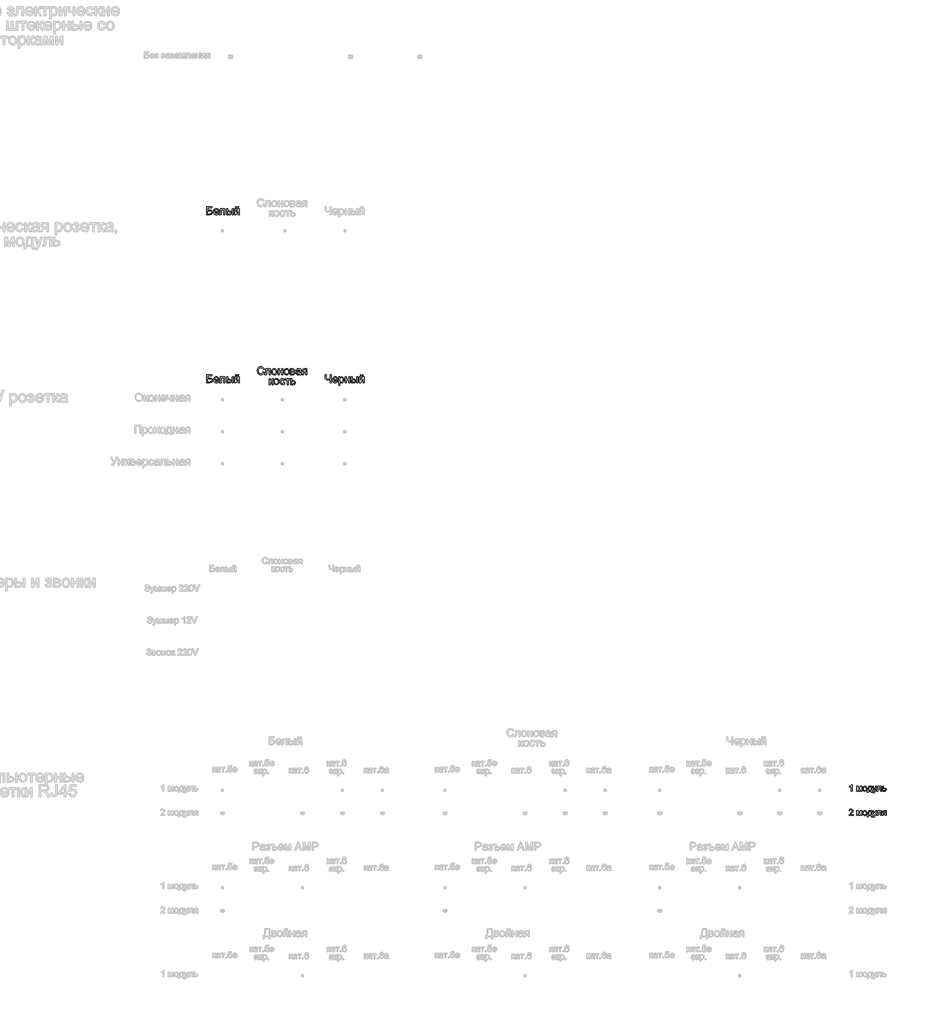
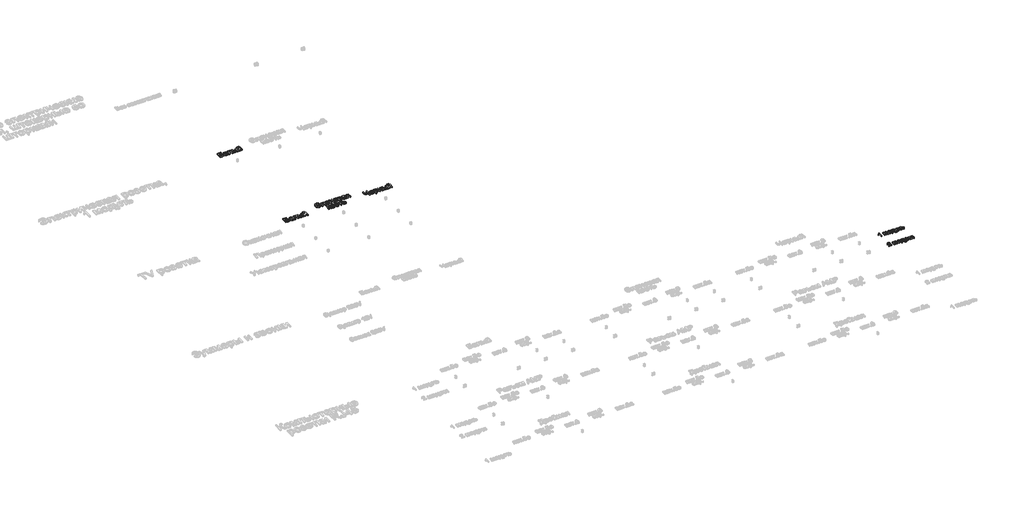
# One storey, part 35 of 47: 6 proxies.
"""IFC4 building model written with IfcOpenShell, lengths in millimetres."""

from ifc_helpers import new_model, si_unit, origin, origin_with_axes, place, context, project, spatial, polyline, outline, extrude, element, save

model = new_model("IFC4")

# Units and contexts
model_context = context("Model", 3, world=origin())
ifc_project = project(units=[si_unit("LENGTHUNIT", "METRE", prefix="MILLI")], contexts=[model_context])

# Site, building, storey
site = spatial("IfcSite", under=ifc_project)
building = spatial("IfcBuilding", under=site)
storey = spatial("IfcBuildingStorey", under=building, Name="Этаж 01", Elevation=0.0)

# Proxies
placement = place(None, origin())
element("IfcBuildingElementProxy", 1, Name="100 мм Arial", ObjectType="100 мм Arial", at=placement, inside=storey, context=model_context, shape_type="SweptSolid", body=[
    extrude(outline(polyline([(-193.1272764, -13030.4463281), (-130.3420826, -13030.4463281), (-130.3420826, -13043.0033668), (-180.5702376, -13043.0033668), (-180.5702376, -13072.8263339), (-157.0503154, -13072.8263339), (-136.3262964, -13075.3769824), (-123.9899868, -13085.0154907), (-119.3546737, -13101.4966041), (-122.6533489, -13115.8072137), (-132.5003236, -13126.684258), (-154.7939725, -13130.9026382), (-193.1272764, -13130.9026382), (-193.1272764, -13030.4463281)]), holes=[polyline([(-180.5702376, -13118.3455994), (-153.6658011, -13118.3455994), (-137.3563659, -13114.2007956), (-133.2728758, -13109.0197909), (-131.9117124, -13101.7663842), (-135.0264466, -13091.9316722), (-143.696199, -13086.6832224), (-162.6175963, -13085.3833727), (-180.5702376, -13085.3833727), (-180.5702376, -13118.3455994)])]), origin_with_axes(), (0.0, 0.0, 1.0), 20.0),
    extrude(outline(polyline([(-52.0077431, -13108.9278204), (-39.695959, -13110.4974502), (-44.1320027, -13119.7742079), (-51.2106654, -13126.7087835), (-60.7725316, -13131.0313969), (-72.6581857, -13132.4722681), (-87.3918596, -13129.9859989), (-98.7287565, -13122.5271915), (-105.9576377, -13110.5802237), (-108.3672647, -13094.6294735), (-105.9331122, -13078.1422287), (-98.6306546, -13065.8120505), (-87.4470419, -13058.1233168), (-73.3694243, -13055.5604056), (-59.7301993, -13058.1171855), (-48.8316952, -13065.7875251), (-41.6855874, -13078.0931778), (-39.3035515, -13094.5558971), (-39.3771279, -13097.9404114), (-95.810226, -13097.9404114), (-93.6366565, -13107.3397964), (-88.5874761, -13114.2498466), (-81.3003469, -13118.4988836), (-72.4129311, -13119.9152293), (-60.101147, -13117.2910044), (-52.0077431, -13108.9278204)]), holes=[polyline([(-95.810226, -13085.3833727), (-51.8605903, -13085.3833727), (-56.8883109, -13074.0035563), (-64.2091626, -13069.5889724), (-73.4184752, -13068.1174444), (-88.8817817, -13072.8140712), (-93.7470211, -13078.30471), (-95.810226, -13085.3833727)])]), origin_with_axes(), (0.0, 0.0, 1.0), 20.0),
    extrude(outline(polyline([(-20.4679933, -13057.1300355), (36.0386811, -13057.1300355), (36.0386811, -13130.8290618), (23.4816423, -13130.8290618), (23.4816423, -13069.6870742), (-7.9109546, -13069.6870742), (-7.9109546, -13104.8811184), (-8.7570832, -13121.1169771), (-13.404659, -13127.971845), (-24.392068, -13130.9026382), (-34.594662, -13130.2649761), (-34.594662, -13118.3455994), (-28.9783302, -13118.3455994), (-23.3006847, -13117.5730473), (-21.0320791, -13115.1205006), (-20.4679933, -13104.1698799), (-20.4679933, -13057.1300355)])), origin_with_axes(), (0.0, 0.0, 1.0), 20.0),
    extrude(outline(polyline([(123.9379525, -13057.1300355), (136.4949913, -13057.1300355), (136.4949913, -13130.9026382), (123.9379525, -13130.9026382), (123.9379525, -13057.1300355)])), origin_with_axes(), (0.0, 0.0, 1.0), 20.0),
    extrude(outline(polyline([(54.8742393, -13057.1300355), (67.431278, -13057.1300355), (67.431278, -13083.8137428), (82.9558982, -13083.8137428), (96.374394, -13085.3864384), (106.3164049, -13090.104525), (112.4692313, -13097.5878579), (114.5201734, -13107.4562924), (112.8003251, -13116.4418101), (107.6407801, -13124.0232449), (98.7043133, -13129.1827899), (85.6536995, -13130.9026382), (54.8742393, -13130.9026382), (54.8742393, -13057.1300355)]), holes=[polyline([(67.431278, -13118.3455994), (80.3316733, -13118.3455994), (96.984465, -13115.7091118), (101.9631346, -13107.4808179), (98.272052, -13099.755296), (81.9748796, -13096.3707816), (67.431278, -13096.3707816), (67.431278, -13118.3455994)])]), origin_with_axes(), (0.0, 0.0, 1.0), 20.0),
    extrude(outline(polyline([(196.1409254, -13030.4463281), (205.5587045, -13030.4463281), (199.4641261, -13044.4135812), (185.9383314, -13049.2818862), (171.296628, -13044.4503694), (164.7483285, -13030.4463281), (174.1661076, -13030.4463281), (177.6977747, -13037.5219251), (184.81016, -13039.8641071), (192.6092583, -13037.5955015), (196.1409254, -13030.4463281)])), origin_with_axes(), (0.0, 0.0, 1.0), 20.0),
    extrude(outline(polyline([(155.3305494, -13057.1300355), (167.8875882, -13057.1300355), (167.8875882, -13113.3914552), (198.7406248, -13057.1300355), (214.9764836, -13057.1300355), (214.9764836, -13130.9026382), (202.4194448, -13130.9026382), (202.4194448, -13074.984575), (171.7626119, -13130.9026382), (155.3305494, -13130.9026382), (155.3305494, -13057.1300355)])), origin_with_axes(), (0.0, 0.0, 1.0), 20.0),
])
element("IfcBuildingElementProxy", 2, Name="100 мм Arial", ObjectType="100 мм Arial", at=placement, inside=storey, context=model_context, shape_type="SweptSolid", body=[
    extrude(outline(polyline([(-193.1272764, -15130.4463281), (-130.3420826, -15130.4463281), (-130.3420826, -15143.0033668), (-180.5702376, -15143.0033668), (-180.5702376, -15172.8263339), (-157.0503154, -15172.8263339), (-136.3262964, -15175.3769824), (-123.9899868, -15185.0154907), (-119.3546737, -15201.4966041), (-122.6533489, -15215.8072137), (-132.5003236, -15226.684258), (-154.7939725, -15230.9026382), (-193.1272764, -15230.9026382), (-193.1272764, -15130.4463281)]), holes=[polyline([(-180.5702376, -15218.3455994), (-153.6658011, -15218.3455994), (-137.3563659, -15214.2007956), (-133.2728758, -15209.0197909), (-131.9117124, -15201.7663842), (-135.0264466, -15191.9316722), (-143.696199, -15186.6832224), (-162.6175963, -15185.3833727), (-180.5702376, -15185.3833727), (-180.5702376, -15218.3455994)])]), origin_with_axes(), (0.0, 0.0, 1.0), 20.0),
    extrude(outline(polyline([(-52.0077431, -15208.9278204), (-39.695959, -15210.4974502), (-44.1320027, -15219.7742079), (-51.2106654, -15226.7087835), (-60.7725316, -15231.0313969), (-72.6581857, -15232.4722681), (-87.3918596, -15229.9859989), (-98.7287565, -15222.5271915), (-105.9576377, -15210.5802237), (-108.3672647, -15194.6294735), (-105.9331122, -15178.1422287), (-98.6306546, -15165.8120505), (-87.4470419, -15158.1233168), (-73.3694243, -15155.5604056), (-59.7301993, -15158.1171855), (-48.8316952, -15165.7875251), (-41.6855874, -15178.0931778), (-39.3035515, -15194.5558971), (-39.3771279, -15197.9404114), (-95.810226, -15197.9404114), (-93.6366565, -15207.3397964), (-88.5874761, -15214.2498466), (-81.3003469, -15218.4988836), (-72.4129311, -15219.9152293), (-60.101147, -15217.2910044), (-52.0077431, -15208.9278204)]), holes=[polyline([(-95.810226, -15185.3833727), (-51.8605903, -15185.3833727), (-56.8883109, -15174.0035563), (-64.2091626, -15169.5889724), (-73.4184752, -15168.1174444), (-88.8817817, -15172.8140712), (-93.7470211, -15178.30471), (-95.810226, -15185.3833727)])]), origin_with_axes(), (0.0, 0.0, 1.0), 20.0),
    extrude(outline(polyline([(-20.4679933, -15157.1300355), (36.0386811, -15157.1300355), (36.0386811, -15230.8290618), (23.4816423, -15230.8290618), (23.4816423, -15169.6870742), (-7.9109546, -15169.6870742), (-7.9109546, -15204.8811184), (-8.7570832, -15221.1169771), (-13.404659, -15227.971845), (-24.392068, -15230.9026382), (-34.594662, -15230.2649761), (-34.594662, -15218.3455994), (-28.9783302, -15218.3455994), (-23.3006847, -15217.5730473), (-21.0320791, -15215.1205006), (-20.4679933, -15204.1698799), (-20.4679933, -15157.1300355)])), origin_with_axes(), (0.0, 0.0, 1.0), 20.0),
    extrude(outline(polyline([(123.9379525, -15157.1300355), (136.4949913, -15157.1300355), (136.4949913, -15230.9026382), (123.9379525, -15230.9026382), (123.9379525, -15157.1300355)])), origin_with_axes(), (0.0, 0.0, 1.0), 20.0),
    extrude(outline(polyline([(54.8742393, -15157.1300355), (67.431278, -15157.1300355), (67.431278, -15183.8137428), (82.9558982, -15183.8137428), (96.374394, -15185.3864384), (106.3164049, -15190.104525), (112.4692313, -15197.5878579), (114.5201734, -15207.4562924), (112.8003251, -15216.4418101), (107.6407801, -15224.0232449), (98.7043133, -15229.1827899), (85.6536995, -15230.9026382), (54.8742393, -15230.9026382), (54.8742393, -15157.1300355)]), holes=[polyline([(67.431278, -15218.3455994), (80.3316733, -15218.3455994), (96.984465, -15215.7091118), (101.9631346, -15207.4808179), (98.272052, -15199.755296), (81.9748796, -15196.3707816), (67.431278, -15196.3707816), (67.431278, -15218.3455994)])]), origin_with_axes(), (0.0, 0.0, 1.0), 20.0),
    extrude(outline(polyline([(196.1409254, -15130.4463281), (205.5587045, -15130.4463281), (199.4641261, -15144.4135812), (185.9383314, -15149.2818862), (171.296628, -15144.4503694), (164.7483285, -15130.4463281), (174.1661076, -15130.4463281), (177.6977747, -15137.5219251), (184.81016, -15139.8641071), (192.6092583, -15137.5955015), (196.1409254, -15130.4463281)])), origin_with_axes(), (0.0, 0.0, 1.0), 20.0),
    extrude(outline(polyline([(155.3305494, -15157.1300355), (167.8875882, -15157.1300355), (167.8875882, -15213.3914552), (198.7406248, -15157.1300355), (214.9764836, -15157.1300355), (214.9764836, -15230.9026382), (202.4194448, -15230.9026382), (202.4194448, -15174.984575), (171.7626119, -15230.9026382), (155.3305494, -15230.9026382), (155.3305494, -15157.1300355)])), origin_with_axes(), (0.0, 0.0, 1.0), 20.0),
])
element("IfcBuildingElementProxy", 3, Name="100 мм Arial", ObjectType="100 мм Arial", at=placement, inside=storey, context=model_context, shape_type="SweptSolid", body=[
    extrude(outline(polyline([(512.340867, -15095.1935592), (524.8979057, -15098.4309208), (519.1037643, -15113.0634271), (510.0109477, -15123.7534648), (498.0670456, -15130.2925672), (483.7196477, -15132.4722681), (469.1545864, -15130.8229305), (457.5877634, -15125.8749176), (448.7218073, -15117.7999078), (442.2593469, -15106.7695793), (436.9986344, -15079.9141937), (438.4854908, -15065.2663589), (442.9460599, -15052.6173496), (450.14735, -15042.3687704), (459.856369, -15034.9222257), (471.3710754, -15030.3880801), (483.9894279, -15028.8766982), (497.7574115, -15030.8326042), (509.1402936, -15036.700322), (517.7824548, -15046.1181011), (523.3282759, -15058.7241908), (510.7712371, -15061.7162977), (500.4705413, -15046.2775166), (483.4989185, -15041.433737), (463.85402, -15046.8048141), (452.7562465, -15061.2257883), (449.5556731, -15079.8896682), (453.3448577, -15101.5211295), (465.141607, -15115.3412298), (482.468849, -15119.9152293), (492.9504201, -15118.3578622), (501.6845518, -15113.6857608), (508.2788366, -15105.9479762), (512.340867, -15095.1935592)])), origin_with_axes(), (0.0, 0.0, 1.0), 20.0),
    extrude(outline(polyline([(546.8727236, -15057.1300355), (603.379398, -15057.1300355), (603.379398, -15130.8290618), (590.8223593, -15130.8290618), (590.8223593, -15069.6870742), (559.4297624, -15069.6870742), (559.4297624, -15104.8811184), (558.5836338, -15121.1169771), (553.9360579, -15127.971845), (542.948649, -15130.9026382), (532.746055, -15130.2649761), (532.746055, -15118.3455994), (538.3623868, -15118.3455994), (544.0400322, -15117.5730473), (546.3086379, -15115.1205006), (546.8727236, -15104.1698799), (546.8727236, -15057.1300355)])), origin_with_axes(), (0.0, 0.0, 1.0), 20.0),
    extrude(outline(polyline([(619.0756965, -15094.0163368), (621.7918919, -15076.2292424), (629.9404781, -15063.7273859), (640.008182, -15057.6021507), (652.0624487, -15055.5604056), (665.2540839, -15058.0466748), (675.7908374, -15065.5054822), (682.6978219, -15077.3482168), (685.00015, -15092.9862672), (680.9289226, -15115.3289671), (669.0708596, -15127.971845), (652.0624487, -15132.4722681), (638.711398, -15129.995196), (628.1869073, -15122.5639797), (621.3534992, -15110.4729248), (619.0756965, -15094.0163368)]), holes=[polyline([(631.6327353, -15093.9918114), (633.0858692, -15105.3562993), (637.4452708, -15113.4527689), (644.005833, -15118.2996142), (652.0624487, -15119.9152293), (660.0822762, -15118.2904171), (666.6305757, -15113.4159807), (670.9899774, -15105.2122122), (672.4431113, -15093.5994039), (670.9807803, -15082.5660097), (666.5937875, -15074.5799048), (660.036291, -15069.7330595), (652.0624487, -15068.1174444), (644.005833, -15069.7269281), (637.4452708, -15074.5553793), (633.0858692, -15082.6334548), (631.6327353, -15093.9918114)])]), origin_with_axes(), (0.0, 0.0, 1.0), 20.0),
    extrude(outline(polyline([(699.1268187, -15057.1300355), (711.6838574, -15057.1300355), (711.6838574, -15085.3833727), (744.6460842, -15085.3833727), (744.6460842, -15057.1300355), (757.203123, -15057.1300355), (757.203123, -15130.9026382), (744.6460842, -15130.9026382), (744.6460842, -15097.9404114), (711.6838574, -15097.9404114), (711.6838574, -15130.9026382), (699.1268187, -15130.9026382), (699.1268187, -15057.1300355)])), origin_with_axes(), (0.0, 0.0, 1.0), 20.0),
    extrude(outline(polyline([(772.8994214, -15094.0163368), (775.6156168, -15076.2292424), (783.764203, -15063.7273859), (793.8319069, -15057.6021507), (805.8861737, -15055.5604056), (819.0778089, -15058.0466748), (829.6145623, -15065.5054822), (836.5215468, -15077.3482168), (838.823875, -15092.9862672), (834.7526475, -15115.3289671), (822.8945846, -15127.971845), (805.8861737, -15132.4722681), (792.5351229, -15129.995196), (782.0106322, -15122.5639797), (775.1772241, -15110.4729248), (772.8994214, -15094.0163368)]), holes=[polyline([(785.4564602, -15093.9918114), (786.9095941, -15105.3562993), (791.2689957, -15113.4527689), (797.829558, -15118.2996142), (805.8861737, -15119.9152293), (813.9060011, -15118.2904171), (820.4543007, -15113.4159807), (824.8137023, -15105.2122122), (826.2668362, -15093.5994039), (824.8045053, -15082.5660097), (820.4175125, -15074.5799048), (813.8600159, -15069.7330595), (805.8861737, -15068.1174444), (797.829558, -15069.7269281), (791.2689957, -15074.5553793), (786.9095941, -15082.6334548), (785.4564602, -15093.9918114)])]), origin_with_axes(), (0.0, 0.0, 1.0), 20.0),
    extrude(outline(polyline([(852.9505436, -15057.1300355), (880.6152696, -15057.1300355), (895.7842705, -15058.8100299), (904.3191328, -15064.9659219), (907.8875882, -15075.6958135), (905.7293471, -15084.4146168), (899.2300986, -15090.6318225), (907.666859, -15097.4376394), (911.0268479, -15109.2711769), (908.8992637, -15118.8422401), (903.8408862, -15125.580612), (895.8333215, -15129.5721317), (884.8581753, -15130.9026382), (852.9505436, -15130.9026382), (852.9505436, -15057.1300355)]), holes=[polyline([(865.5075823, -15085.3833727), (877.9174683, -15085.3833727), (888.1568505, -15084.7457106), (893.1355202, -15082.1950621), (895.3305494, -15077.5842744), (891.4800512, -15071.4283823), (878.3098758, -15069.6870742), (865.5075823, -15069.6870742), (865.5075823, -15085.3833727)]), polyline([(865.5075823, -15118.3455994), (880.9095752, -15118.3455994), (894.57026, -15116.0769938), (898.4698091, -15108.2411073), (896.3238308, -15102.1955799), (890.7320245, -15098.6761754), (879.6833019, -15097.9404114), (865.5075823, -15097.9404114), (865.5075823, -15118.3455994)])]), origin_with_axes(), (0.0, 0.0, 1.0), 20.0),
    extrude(outline(polyline([(973.8120417, -15121.4848591), (961.6351477, -15129.995196), (948.1829294, -15132.4722681), (937.6890955, -15130.982346), (929.9482452, -15126.5125797), (925.1749763, -15119.7251569), (923.5838866, -15111.2822651), (925.9873823, -15101.3494513), (932.3026899, -15094.1389642), (941.0950696, -15090.0186858), (951.9598512, -15088.1302249), (973.7384653, -15083.8137428), (973.8120417, -15081.0178397), (970.353951, -15071.7472134), (956.472537, -15068.1174444), (943.7683454, -15070.5332028), (937.7105553, -15079.1048533), (925.1535165, -15077.5352234), (930.5859073, -15065.2724903), (941.5242653, -15058.0865286), (958.0912178, -15055.5604056), (973.3092697, -15057.792223), (981.9054456, -15063.3962921), (985.7559438, -15071.9188917), (986.3690805, -15082.9063006), (986.3690805, -15098.5290226), (987.0067426, -15120.344425), (989.5083402, -15130.9026382), (976.9513014, -15130.9026382), (973.8120417, -15121.4848591)]), holes=[polyline([(973.8120417, -15096.3707816), (953.5540065, -15100.2212798), (942.7505386, -15102.2568935), (937.8577081, -15105.5678315), (936.1409254, -15110.3993484), (939.881059, -15117.1929025), (950.8562052, -15119.9152293), (963.5603968, -15116.9108597), (971.7519025, -15109.6390589), (973.7384653, -15099.9269742), (973.8120417, -15096.3707816)])]), origin_with_axes(), (0.0, 0.0, 1.0), 20.0),
    extrude(outline(polyline([(1060.1416833, -15057.1300355), (1060.1416833, -15130.9026382), (1047.5846445, -15130.9026382), (1047.5846445, -15102.649301), (1040.7420394, -15102.649301), (1031.4223622, -15104.2434563), (1022.6667707, -15114.9610851), (1012.6603804, -15130.9026382), (998.1413043, -15130.9026382), (1010.747394, -15110.7427049), (1021.4404974, -15100.2948562), (1012.8565841, -15097.6645), (1006.8233194, -15092.6674362), (1002.0653789, -15078.4426657), (1003.6901911, -15069.8464898), (1008.5646275, -15063.0406728), (1016.51701, -15058.6076948), (1027.3756602, -15057.1300355), (1060.1416833, -15057.1300355)]), holes=[polyline([(1047.5846445, -15069.6870742), (1031.0299547, -15069.6870742), (1017.6267873, -15072.593342), (1014.6224177, -15079.3991589), (1019.0492644, -15087.5048255), (1034.7333001, -15090.0922622), (1047.5846445, -15090.0922622), (1047.5846445, -15069.6870742)])]), origin_with_axes(), (0.0, 0.0, 1.0), 20.0),
    extrude(outline(polyline([(586.8982847, -15179.1048533), (599.4553234, -15179.1048533), (599.4553234, -15210.4974502), (607.8675584, -15208.2411073), (614.7592144, -15195.0954574), (620.4859108, -15183.7524292), (625.5381569, -15180.0613465), (634.722944, -15179.1048533), (637.1264397, -15179.1048533), (637.1264397, -15191.7354685), (633.7419254, -15191.6618921), (627.6105588, -15192.9862672), (623.2940767, -15201.2513494), (618.2295679, -15210.1908819), (611.1294454, -15214.5686776), (619.051171, -15219.4553768), (626.8257439, -15229.7499413), (640.2656994, -15252.8774561), (625.991878, -15252.8774561), (612.8217026, -15230.2404506), (606.1998267, -15220.663256), (599.4553234, -15218.3455994), (599.4553234, -15252.8774561), (586.8982847, -15252.8774561), (586.8982847, -15179.1048533)])), origin_with_axes(), (0.0, 0.0, 1.0), 20.0),
    extrude(outline(polyline([(644.974589, -15215.9911547), (647.6907844, -15198.2040602), (655.8393706, -15185.7022037), (665.9070745, -15179.5769685), (677.9613412, -15177.5352234), (691.1529764, -15180.0214926), (701.6897299, -15187.4803001), (708.5967143, -15199.3230346), (710.8990425, -15214.9610851), (706.8278151, -15237.3037849), (694.9697521, -15249.9466628), (677.9613412, -15254.4470859), (664.6102905, -15251.9700138), (654.0857997, -15244.5387975), (647.2523917, -15232.4477426), (644.974589, -15215.9911547)]), holes=[polyline([(657.5316277, -15215.9666292), (658.9847616, -15227.3311172), (663.3441633, -15235.4275868), (669.9047255, -15240.274432), (677.9613412, -15241.8900471), (685.9811687, -15240.265235), (692.5294682, -15235.3907986), (696.8888698, -15227.1870301), (698.3420037, -15215.5742218), (696.8796728, -15204.5408276), (692.49268, -15196.5547226), (685.9351834, -15191.7078773), (677.9613412, -15190.0922622), (669.9047255, -15191.7017459), (663.3441633, -15196.5301971), (658.9847616, -15204.6082726), (657.5316277, -15215.9666292)])]), origin_with_axes(), (0.0, 0.0, 1.0), 20.0),
    extrude(outline(polyline([(772.1146065, -15226.1937487), (784.6716453, -15227.7633785), (781.1706349, -15238.9316628), (774.5916786, -15247.3714889), (765.5540442, -15252.6781866), (754.6769999, -15254.4470859), (741.3198178, -15251.9792109), (730.8750348, -15244.5755857), (724.1335973, -15232.5611729), (721.8864514, -15216.2609348), (725.7246869, -15195.4020257), (737.4233344, -15181.9988583), (754.5053217, -15177.5352234), (765.1156515, -15179.0680651), (773.5983972, -15183.66659), (779.6837785, -15191.0855436), (783.1020154, -15201.0796711), (770.5449767, -15202.649301), (764.7201784, -15193.2437846), (754.6034235, -15190.0922622), (746.4885598, -15191.643498), (740.0475593, -15196.2972052), (735.8445075, -15204.30477), (734.4434902, -15215.9175783), (735.8138506, -15227.6867364), (739.9249319, -15235.7218924), (746.2494366, -15240.3480084), (754.260067, -15241.8900471), (766.0936045, -15238.0395489), (772.1146065, -15226.1937487)])), origin_with_axes(), (0.0, 0.0, 1.0), 20.0),
    extrude(outline(polyline([(789.3805348, -15179.1048533), (849.026469, -15179.1048533), (849.026469, -15191.6618921), (825.4820213, -15191.6618921), (825.4820213, -15252.8774561), (812.9249825, -15252.8774561), (812.9249825, -15191.6618921), (789.3805348, -15191.6618921), (789.3805348, -15179.1048533)])), origin_with_axes(), (0.0, 0.0, 1.0), 20.0),
    extrude(outline(polyline([(860.0138779, -15179.1048533), (872.5709166, -15179.1048533), (872.5709166, -15205.7885607), (887.0409418, -15205.7885607), (899.5857178, -15207.3612562), (908.8686068, -15212.0793428), (914.607566, -15219.5626757), (916.5205523, -15229.4311102), (914.8926745, -15238.416628), (910.009041, -15245.9980628), (901.5446894, -15251.1576077), (889.1746574, -15252.8774561), (860.0138779, -15252.8774561), (860.0138779, -15179.1048533)]), holes=[polyline([(872.5709166, -15240.3204173), (884.2940896, -15240.3204173), (899.438565, -15237.6839297), (903.9635136, -15229.4556357), (900.6157874, -15221.7301138), (885.790143, -15218.3455994), (872.5709166, -15218.3455994), (872.5709166, -15240.3204173)])]), origin_with_axes(), (0.0, 0.0, 1.0), 20.0),
])
element("IfcBuildingElementProxy", 4, Name="100 мм Arial", ObjectType="100 мм Arial", at=placement, inside=storey, context=model_context, shape_type="SweptSolid", body=[
    extrude(outline(polyline([(1361.6197653, -15230.9026382), (1349.0627265, -15230.9026382), (1349.0627265, -15190.6808734), (1317.9644352, -15197.9404114), (1299.6071236, -15192.9740045), (1288.9630712, -15180.3679148), (1286.2775327, -15160.367397), (1286.2775327, -15130.4463281), (1298.8345714, -15130.4463281), (1298.8345714, -15158.6751398), (1300.3428876, -15172.2530511), (1304.8678362, -15180.220762), (1319.3623868, -15185.3833727), (1349.0627265, -15179.1539042), (1349.0627265, -15130.4463281), (1361.6197653, -15130.4463281), (1361.6197653, -15230.9026382)])), origin_with_axes(), (0.0, 0.0, 1.0), 20.0),
    extrude(outline(polyline([(1433.6755854, -15208.9278204), (1445.9873695, -15210.4974502), (1441.5513258, -15219.7742079), (1434.4726631, -15226.7087835), (1424.9107969, -15231.0313969), (1413.0251427, -15232.4722681), (1398.2914688, -15229.9859989), (1386.954572, -15222.5271915), (1379.7256908, -15210.5802237), (1377.3160637, -15194.6294735), (1379.7502163, -15178.1422287), (1387.0526739, -15165.8120505), (1398.2362865, -15158.1233168), (1412.3139042, -15155.5604056), (1425.9531292, -15158.1171855), (1436.8516333, -15165.7875251), (1443.997741, -15178.0931778), (1446.379777, -15194.5558971), (1446.3062006, -15197.9404114), (1389.8731025, -15197.9404114), (1392.046672, -15207.3397964), (1397.0958523, -15214.2498466), (1404.3829815, -15218.4988836), (1413.2703974, -15219.9152293), (1425.5821815, -15217.2910044), (1433.6755854, -15208.9278204)]), holes=[polyline([(1389.8731025, -15185.3833727), (1433.8227382, -15185.3833727), (1428.7950176, -15174.0035563), (1421.4741659, -15169.5889724), (1412.2648533, -15168.1174444), (1396.8015467, -15172.8140712), (1391.9363074, -15178.30471), (1389.8731025, -15185.3833727)])]), origin_with_axes(), (0.0, 0.0, 1.0), 20.0),
    extrude(outline(polyline([(1458.9368157, -15259.1559754), (1458.9368157, -15157.1300355), (1471.4938545, -15157.1300355), (1471.4938545, -15169.4418196), (1480.1758696, -15159.0307591), (1491.8990425, -15155.5604056), (1507.8160702, -15160.4164479), (1518.2148679, -15174.1016582), (1521.7220096, -15193.4522511), (1517.7611468, -15213.7961254), (1506.258703, -15227.6530139), (1490.3784636, -15232.4722681), (1479.4523683, -15229.2471692), (1471.4938545, -15221.0924517), (1471.4938545, -15259.1559754), (1458.9368157, -15259.1559754)]), holes=[polyline([(1471.4938545, -15194.604948), (1472.8519522, -15205.8621371), (1476.9262453, -15213.7348118), (1482.9380502, -15218.3701249), (1490.1086835, -15219.9152293), (1497.3958126, -15218.3149426), (1503.5609017, -15213.5140826), (1507.7639535, -15205.3532337), (1509.1649708, -15193.6729803), (1507.7976761, -15182.4771049), (1503.6957918, -15174.4940656), (1497.6931839, -15169.7115997), (1490.6237182, -15168.1174444), (1483.5266614, -15169.8127672), (1477.2941273, -15174.8987358), (1472.9439227, -15183.2159346), (1471.4938545, -15194.604948)])]), origin_with_axes(), (0.0, 0.0, 1.0), 20.0),
    extrude(outline(polyline([(1535.8486782, -15157.1300355), (1548.405717, -15157.1300355), (1548.405717, -15185.3833727), (1581.3679437, -15185.3833727), (1581.3679437, -15157.1300355), (1593.9249825, -15157.1300355), (1593.9249825, -15230.9026382), (1581.3679437, -15230.9026382), (1581.3679437, -15197.9404114), (1548.405717, -15197.9404114), (1548.405717, -15230.9026382), (1535.8486782, -15230.9026382), (1535.8486782, -15157.1300355)])), origin_with_axes(), (0.0, 0.0, 1.0), 20.0),
    extrude(outline(polyline([(1612.7605406, -15157.1300355), (1625.3175794, -15157.1300355), (1625.3175794, -15183.8137428), (1640.8421996, -15183.8137428), (1654.2606954, -15185.3864384), (1664.2027063, -15190.104525), (1670.3555327, -15197.5878579), (1672.4064748, -15207.4562924), (1670.6866265, -15216.4418101), (1665.5270815, -15224.0232449), (1656.5906147, -15229.1827899), (1643.5400009, -15230.9026382), (1612.7605406, -15230.9026382), (1612.7605406, -15157.1300355)]), holes=[polyline([(1625.3175794, -15218.3455994), (1638.2179747, -15218.3455994), (1654.8707664, -15215.7091118), (1659.849436, -15207.4808179), (1656.1583533, -15199.755296), (1639.861181, -15196.3707816), (1625.3175794, -15196.3707816), (1625.3175794, -15218.3455994)])]), origin_with_axes(), (0.0, 0.0, 1.0), 20.0),
    extrude(outline(polyline([(1681.8242539, -15157.1300355), (1694.3812926, -15157.1300355), (1694.3812926, -15230.9026382), (1681.8242539, -15230.9026382), (1681.8242539, -15157.1300355)])), origin_with_axes(), (0.0, 0.0, 1.0), 20.0),
    extrude(outline(polyline([(1713.2168508, -15157.1300355), (1725.7738896, -15157.1300355), (1725.7738896, -15213.3914552), (1756.6269262, -15157.1300355), (1772.8627849, -15157.1300355), (1772.8627849, -15230.9026382), (1760.3057462, -15230.9026382), (1760.3057462, -15174.984575), (1729.6489132, -15230.9026382), (1713.2168508, -15230.9026382), (1713.2168508, -15157.1300355)])), origin_with_axes(), (0.0, 0.0, 1.0), 20.0),
    extrude(outline(polyline([(1754.0272268, -15130.4463281), (1763.4450059, -15130.4463281), (1757.3504275, -15144.4135812), (1743.8246328, -15149.2818862), (1729.1829294, -15144.4503694), (1722.6346299, -15130.4463281), (1732.052409, -15130.4463281), (1735.5840761, -15137.5219251), (1742.6964613, -15139.8641071), (1750.4955596, -15137.5955015), (1754.0272268, -15130.4463281)])), origin_with_axes(), (0.0, 0.0, 1.0), 20.0),
])
element("IfcBuildingElementProxy", 5, Name="80 мм Arial", ObjectType="80 мм Arial", at=placement, inside=storey, context=model_context, shape_type="SweptSolid", body=[
    extrude(outline(polyline([(7871.0563135, -20331.4329989), (7861.0106825, -20331.4329989), (7861.0106825, -20268.804768), (7851.4948016, -20275.5836069), (7840.9194205, -20280.6554733), (7840.9194205, -20271.1592128), (7855.6445105, -20261.7610541), (7864.5815904, -20251.0679507), (7871.0563135, -20251.0679507), (7871.0563135, -20331.4329989)])), origin_with_axes(), (0.0, 0.0, 1.0), 20.0),
    extrude(outline(polyline([(7928.8186919, -20272.4149166), (7946.1042406, -20272.4149166), (7959.4264739, -20319.660775), (7973.788587, -20272.4149166), (7990.3481818, -20272.4149166), (7990.3481818, -20331.4329989), (7980.3025508, -20331.4329989), (7980.3025508, -20283.9124553), (7965.8619562, -20331.4329989), (7952.6770655, -20331.4329989), (7938.8643229, -20281.636492), (7938.8643229, -20331.4329989), (7928.8186919, -20331.4329989), (7928.8186919, -20272.4149166)])), origin_with_axes(), (0.0, 0.0, 1.0), 20.0),
    extrude(outline(polyline([(8002.9052206, -20301.9239578), (8005.0781769, -20287.6942822), (8011.5970459, -20277.692797), (8019.651209, -20272.7926088), (8029.2946224, -20271.1592128), (8039.8479306, -20273.1482281), (8048.2773333, -20279.1152741), (8053.8029209, -20288.5894617), (8055.6447834, -20301.0999021), (8052.3878015, -20318.974062), (8042.9013511, -20329.0883643), (8029.2946224, -20332.6887027), (8018.6137818, -20330.7070451), (8010.1941892, -20324.762072), (8004.7274628, -20315.0892281), (8002.9052206, -20301.9239578)]), holes=[polyline([(8012.9508516, -20301.9043374), (8017.60088, -20317.4731034), (8029.2946224, -20322.6430717), (8040.949124, -20317.4436729), (8045.5991524, -20301.5904114), (8040.9196934, -20286.3748121), (8029.2946224, -20281.2048438), (8017.60088, -20286.3551917), (8012.9508516, -20301.9043374)])]), origin_with_axes(), (0.0, 0.0, 1.0), 20.0),
    extrude(outline(polyline([(8075.7360455, -20272.4149166), (8113.4071618, -20272.4149166), (8113.4071618, -20321.3873678), (8120.941385, -20321.3873678), (8120.941385, -20347.7571493), (8110.895754, -20347.7571493), (8110.895754, -20331.4329989), (8069.4575261, -20331.4329989), (8069.4575261, -20347.7571493), (8059.4118951, -20347.7571493), (8059.4118951, -20321.3873678), (8065.6904145, -20321.3873678), (8073.450272, -20302.2280735), (8075.7360455, -20272.4149166)]), holes=[polyline([(8084.5259726, -20282.4605477), (8082.1715278, -20305.3477129), (8076.9917493, -20321.3873678), (8103.3615308, -20321.3873678), (8103.3615308, -20282.4605477), (8084.5259726, -20282.4605477)])]), origin_with_axes(), (0.0, 0.0, 1.0), 20.0),
    extrude(outline(polyline([(8132.2427199, -20354.0356686), (8130.987016, -20344.3628247), (8136.088313, -20345.2457415), (8140.8560637, -20344.1371904), (8143.7794993, -20341.0469817), (8146.5263515, -20333.650101), (8147.3111664, -20331.2171748), (8125.9642005, -20272.4149166), (8136.559202, -20272.4149166), (8147.8801573, -20305.1809397), (8151.8238523, -20318.2873489), (8155.7675472, -20306.7113288), (8167.4024285, -20272.4149166), (8177.9189484, -20272.4149166), (8157.3764178, -20332.8456657), (8152.0396764, -20345.9520749), (8146.2124256, -20353.0350296), (8138.3838967, -20355.2913725), (8132.2427199, -20354.0356686)])), origin_with_axes(), (0.0, 0.0, 1.0), 20.0),
    extrude(outline(polyline([(8191.2608021, -20272.4149166), (8236.4661417, -20272.4149166), (8236.4661417, -20331.3741377), (8226.4205107, -20331.3741377), (8226.4205107, -20282.4605477), (8201.3064332, -20282.4605477), (8201.3064332, -20310.615783), (8200.6295303, -20323.60447), (8196.9114696, -20329.0883643), (8188.1215424, -20331.4329989), (8179.9594672, -20330.9228692), (8179.9594672, -20321.3873678), (8184.4525327, -20321.3873678), (8188.994649, -20320.7693261), (8190.8095336, -20318.8072888), (8191.2608021, -20310.0467922), (8191.2608021, -20272.4149166)])), origin_with_axes(), (0.0, 0.0, 1.0), 20.0),
    extrude(outline(polyline([(8251.5345882, -20272.4149166), (8261.5802192, -20272.4149166), (8261.5802192, -20293.7618826), (8273.1562394, -20293.7618826), (8290.6183714, -20298.7945083), (8295.2095387, -20304.7811746), (8296.7399278, -20312.6759222), (8291.5307187, -20325.9294842), (8284.7592375, -20330.0571202), (8274.8632118, -20331.4329989), (8251.5345882, -20331.4329989), (8251.5345882, -20272.4149166)]), holes=[polyline([(8261.5802192, -20321.3873678), (8270.9587576, -20321.3873678), (8283.0743379, -20319.2781777), (8286.6942968, -20312.6955426), (8284.0161159, -20306.5151251), (8272.1556003, -20303.8075136), (8261.5802192, -20303.8075136), (8261.5802192, -20321.3873678)])]), origin_with_axes(), (0.0, 0.0, 1.0), 20.0),
])
element("IfcBuildingElementProxy", 6, Name="80 мм Arial", ObjectType="80 мм Arial", at=placement, inside=storey, context=model_context, shape_type="SweptSolid", body=[
    extrude(outline(polyline([(7883.6133523, -20625.1206602), (7883.6133523, -20635.1662912), (7830.8737895, -20635.1662912), (7831.95291, -20628.2402995), (7838.054846, -20617.5766267), (7850.6315052, -20605.9319353), (7867.975915, -20589.1957571), (7872.3120174, -20577.8159407), (7868.2211696, -20568.6041755), (7857.5378765, -20564.8468741), (7846.4033148, -20568.5158838), (7842.1751244, -20578.6596167), (7832.1294934, -20577.4039128), (7834.5648722, -20567.6869231), (7839.8304898, -20560.5892531), (7847.651661, -20556.2482456), (7857.7537006, -20554.801243), (7867.9293166, -20556.4101136), (7875.7357725, -20561.2367254), (7880.7021794, -20568.4472125), (7882.3576484, -20577.2077091), (7880.5721945, -20586.7334002), (7874.6370316, -20596.5828275), (7860.245488, -20610.3465192), (7848.6890882, -20620.009553), (7844.156782, -20625.1206602), (7883.6133523, -20625.1206602)])), origin_with_axes(), (0.0, 0.0, 1.0), 20.0),
    extrude(outline(polyline([(7927.562988, -20576.148209), (7944.8485367, -20576.148209), (7958.17077, -20623.3940673), (7972.5328831, -20576.148209), (7989.092478, -20576.148209), (7989.092478, -20635.1662912), (7979.0468469, -20635.1662912), (7979.0468469, -20587.6457476), (7964.6062524, -20635.1662912), (7951.4213617, -20635.1662912), (7937.608619, -20585.3697843), (7937.608619, -20635.1662912), (7927.562988, -20635.1662912), (7927.562988, -20576.148209)])), origin_with_axes(), (0.0, 0.0, 1.0), 20.0),
    extrude(outline(polyline([(8001.6495167, -20605.6572501), (8003.822473, -20591.4275745), (8010.341342, -20581.4260893), (8018.3955052, -20576.5259011), (8028.0389185, -20574.8925051), (8038.5922267, -20576.8815204), (8047.0216295, -20582.8485664), (8052.547217, -20592.322754), (8054.3890796, -20604.8331944), (8051.1320976, -20622.7073543), (8041.6456472, -20632.8216566), (8028.0389185, -20636.421995), (8017.3580779, -20634.4403374), (8008.9384853, -20628.4953643), (8003.4717589, -20618.8225204), (8001.6495167, -20605.6572501)]), holes=[polyline([(8011.6951477, -20605.6376297), (8016.3451762, -20621.2063957), (8028.0389185, -20626.376364), (8039.6934201, -20621.1769652), (8044.3434485, -20605.3237037), (8039.6639896, -20590.1081044), (8028.0389185, -20584.9381361), (8016.3451762, -20590.088484), (8011.6951477, -20605.6376297)])]), origin_with_axes(), (0.0, 0.0, 1.0), 20.0),
    extrude(outline(polyline([(8074.4803416, -20576.148209), (8112.1514579, -20576.148209), (8112.1514579, -20625.1206602), (8119.6856812, -20625.1206602), (8119.6856812, -20651.4904416), (8109.6400501, -20651.4904416), (8109.6400501, -20635.1662912), (8068.2018222, -20635.1662912), (8068.2018222, -20651.4904416), (8058.1561912, -20651.4904416), (8058.1561912, -20625.1206602), (8064.4347106, -20625.1206602), (8072.1945681, -20605.9613658), (8074.4803416, -20576.148209)]), holes=[polyline([(8083.2702687, -20586.19384), (8080.915824, -20609.0810052), (8075.7360455, -20625.1206602), (8102.1058269, -20625.1206602), (8102.1058269, -20586.19384), (8083.2702687, -20586.19384)])]), origin_with_axes(), (0.0, 0.0, 1.0), 20.0),
    extrude(outline(polyline([(8130.987016, -20657.768961), (8129.7313122, -20648.096117), (8134.8326092, -20648.9790338), (8139.6003598, -20647.8704827), (8142.5237954, -20644.780274), (8145.2706476, -20637.3833933), (8146.0554626, -20634.9504671), (8124.7084967, -20576.148209), (8135.3034981, -20576.148209), (8146.6244534, -20608.914232), (8150.5681484, -20622.0206412), (8154.5118434, -20610.4446211), (8166.1467246, -20576.148209), (8176.6632446, -20576.148209), (8156.120714, -20636.578958), (8150.7839725, -20649.6853672), (8144.9567217, -20656.7683219), (8137.1281928, -20659.0246648), (8130.987016, -20657.768961)])), origin_with_axes(), (0.0, 0.0, 1.0), 20.0),
    extrude(outline(polyline([(8190.0050983, -20576.148209), (8235.2104378, -20576.148209), (8235.2104378, -20635.1074301), (8225.1648068, -20635.1074301), (8225.1648068, -20586.19384), (8200.0507293, -20586.19384), (8200.0507293, -20614.3490753), (8199.3738264, -20627.3377623), (8195.6557657, -20632.8216566), (8186.8658386, -20635.1662912), (8178.7037634, -20634.6561615), (8178.7037634, -20625.1206602), (8183.1968288, -20625.1206602), (8187.7389452, -20624.5026184), (8189.5538297, -20622.5405811), (8190.0050983, -20613.7800845), (8190.0050983, -20576.148209)])), origin_with_axes(), (0.0, 0.0, 1.0), 20.0),
    extrude(outline(polyline([(8295.4842239, -20576.148209), (8295.4842239, -20635.1662912), (8285.4385929, -20635.1662912), (8285.4385929, -20612.5636214), (8279.9645088, -20612.5636214), (8272.508767, -20613.8389456), (8265.5042939, -20622.4130487), (8257.4991816, -20635.1662912), (8245.8839208, -20635.1662912), (8255.9687925, -20619.0383445), (8264.5232752, -20610.6800656), (8252.8295329, -20604.5781295), (8249.0231805, -20593.1983132), (8254.2225793, -20580.8767189), (8269.2714055, -20576.148209), (8295.4842239, -20576.148209)]), holes=[polyline([(8285.4385929, -20586.19384), (8272.1948411, -20586.19384), (8261.4723072, -20588.5188542), (8259.0688115, -20593.9635077), (8262.6102888, -20600.448041), (8275.1575174, -20602.5179904), (8285.4385929, -20602.5179904), (8285.4385929, -20586.19384)])]), origin_with_axes(), (0.0, 0.0, 1.0), 20.0),
])

save(model, "model.ifc")
